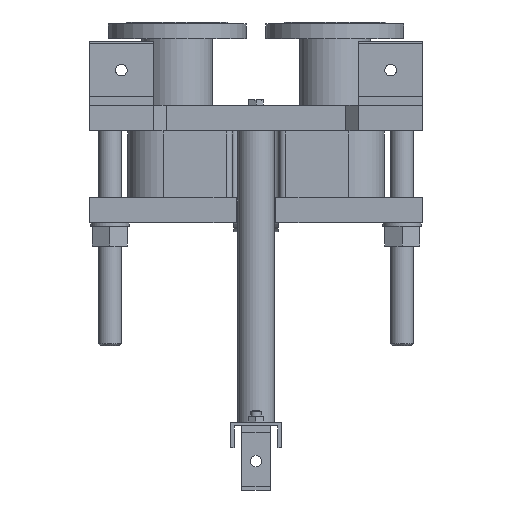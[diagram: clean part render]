
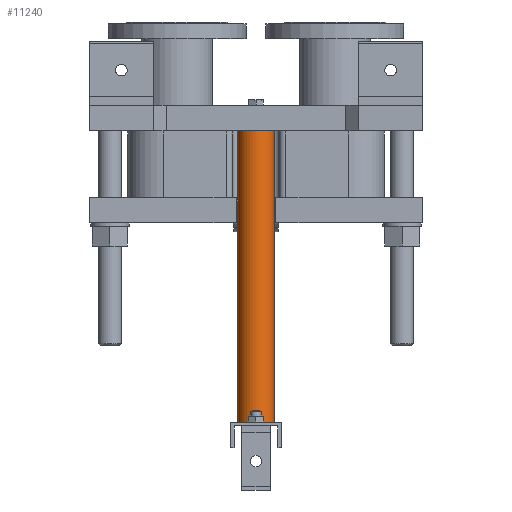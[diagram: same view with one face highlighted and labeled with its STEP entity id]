
A CAD part, front view. The second image highlights one B-rep face of the part: STEP entity #11240.
In plain terms, the highlighted cylindrical face has radius 28.5 mm (diameter 57 mm), a full revolution.
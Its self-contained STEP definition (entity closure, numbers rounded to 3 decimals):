
#781=LINE('',#22043,#1754);
#1754=VECTOR('',#14569,28.5);
#2333=CYLINDRICAL_SURFACE('',#12263,28.5);
#2995=FACE_OUTER_BOUND('',#3777,.T.);
#3777=EDGE_LOOP('',(#9013,#9014,#9015,#9016));
#4462=CIRCLE('',#12264,28.5);
#4463=CIRCLE('',#12265,28.5);
#5286=VERTEX_POINT('',#22040);
#5287=VERTEX_POINT('',#22042);
#6596=EDGE_CURVE('',#5286,#5286,#4462,.T.);
#6597=EDGE_CURVE('',#5286,#5287,#781,.T.);
#6598=EDGE_CURVE('',#5287,#5287,#4463,.T.);
#9013=ORIENTED_EDGE('',*,*,#6596,.F.);
#9014=ORIENTED_EDGE('',*,*,#6597,.T.);
#9015=ORIENTED_EDGE('',*,*,#6598,.T.);
#9016=ORIENTED_EDGE('',*,*,#6597,.F.);
#11240=ADVANCED_FACE('',(#2995),#2333,.T.);
#12263=AXIS2_PLACEMENT_3D('',#22039,#14565,#14566);
#12264=AXIS2_PLACEMENT_3D('',#22041,#14567,#14568);
#12265=AXIS2_PLACEMENT_3D('',#22044,#14570,#14571);
#14565=DIRECTION('center_axis',(0.,0.,
-1.));
#14566=DIRECTION('ref_axis',(-1.,0.,0.));
#14567=DIRECTION('center_axis',(0.,0.,
-1.));
#14568=DIRECTION('ref_axis',(-1.,0.,0.));
#14569=DIRECTION('',(0.,0.,1.));
#14570=DIRECTION('center_axis',(0.,0.,
-1.));
#14571=DIRECTION('ref_axis',(-1.,0.,0.));
#22039=CARTESIAN_POINT('Origin',(0.,215.,0.));
#22040=CARTESIAN_POINT('',(28.5,215.,-454.));
#22041=CARTESIAN_POINT('Origin',(0.,215.,-454.));
#22042=CARTESIAN_POINT('',(28.5,215.,0.));
#22043=CARTESIAN_POINT('',(28.5,215.,0.));
#22044=CARTESIAN_POINT('Origin',(0.,215.,0.));
